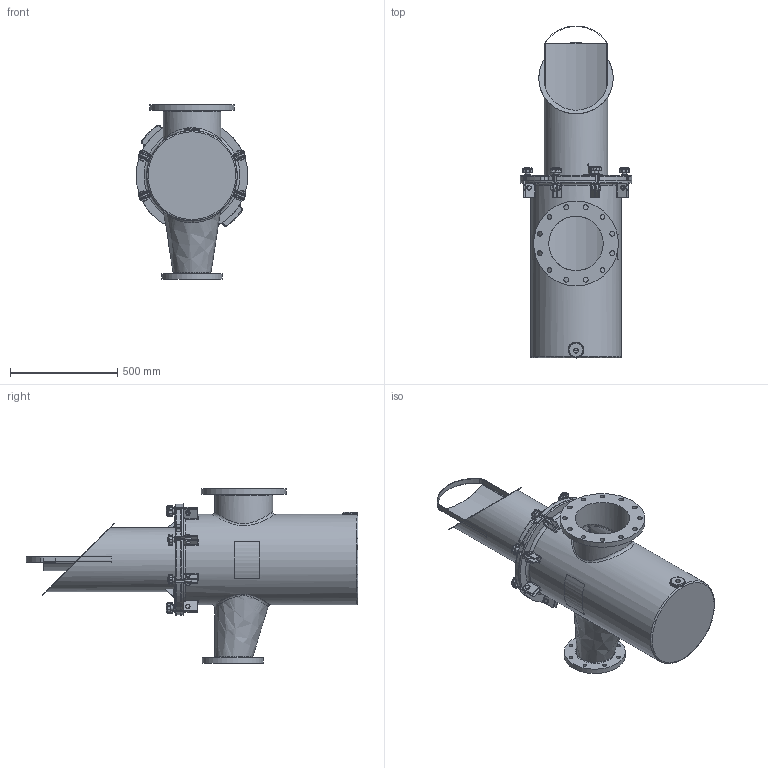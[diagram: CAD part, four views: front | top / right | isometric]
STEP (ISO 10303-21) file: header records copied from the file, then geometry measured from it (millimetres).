
FILE_DESCRIPTION(/* description */ ('250MM X 150MM FIBERGLASS STRAINER BODY'),/* implementation_level */ '2;1');
FILE_NAME(/* name */ 'C:\Users\r.kommineni.ext\Desktop\NB\CAD\Workspace\FG Reducing Strainer\Guardian FG Reducing H&L Strainer (Metric)_CLEARANCE VOLUME\STRAINER H&L 250MM X 150MM.stp',/* time_stamp */ '2017-06-09T13:33:35-04:00',/* author */ ('r.kommineni.ext'),/* organization */ (''),/* preprocessor_version */ 'ST-DEVELOPER v16.1',/* originating_system */ 'Autodesk Inventor 2016',/* authorisation */ '');
FILE_SCHEMA (('CONFIG_CONTROL_DESIGN'));
Length unit declared in the file: inch
Products named in the file (25): NBFGBODY10X06MM; 150NBCVR20R2; 150NBGSK16R1; Perforated Basket 16in; Bride (Ring) 16in; Baffle 16in; Handle 16in; Bottom Strainer 16in; BRACESTRCVR16_Welds; BRACE (BASE) FOR 16 BODY; BRACE (PROJ) FOR 16 BODY; Bumper; BRACESTRCVR16; Nut- 1_2  UNC; Bolt-1_2 x 1 1_2  UNC; EyeBolt; Washer; Knob M10; Securing Assembly For FG  with Brace; Securing Assembly For FG without Brace; Label for 16.625 inch (Right); Label for 16.625 inch (Left); NBBSK10T316_clearance; NBBSK10T316_clearance_1; STRAINER H&L 250MM X 150MM
Assembly tree (40 placements, depth 3):
  STRAINER H&L 250MM X 150MM
    NBFGBODY10X06MM
    150NBCVR20R2
    150NBGSK16R1
    NBBSK10T316_clearance_1
      Perforated Basket 16in
      Bride (Ring) 16in
      Baffle 16in
      Handle 16in
      Bottom Strainer 16in
      NBBSK10T316_clearance
    BRACESTRCVR16
      BRACESTRCVR16_Welds
      BRACE (BASE) FOR 16 BODY
      BRACE (PROJ) FOR 16 BODY
      Bumper  x6
    Securing Assembly For FG  with Brace  x2
      Nut- 1_2  UNC
      Bolt-1_2 x 1 1_2  UNC
      EyeBolt
      Washer
      Knob M10
    Securing Assembly For FG without Brace  x6
      Nut- 1_2  UNC
      Bolt-1_2 x 1 1_2  UNC
      EyeBolt
      Washer
      Knob M10
    Label for 16.625 inch (Right)
    Label for 16.625 inch (Left)
Bounding box: 520.7 x 1548.8 x 812.8 mm (x, y, z)
Volume: 22679340.1 mm3; surface area: 6546008.7 mm2
Topology: 66 solids, 69 shells, 1832 faces, 4192 edges, 2483 vertices
Faces by surface type: cylinder 671, plane 514, cone 184, torus 166, sphere 158, bspline 139
Full cylindrical faces by diameter (mm): 3.175 x11, 6.35 x2, 8.382 x8, 9.525 x16, 10.592 x8, 12.7 x8, 15.875 x16, 17.78 x8, 19 x16, 19.05 x8, 22.098 x12, 22.809 x1, 31.75 x8, 68.263 x1, 254 x1, 269.875 x1, 284.48 x1, 295.275 x2, 298.45 x2, 300.99 x1, 396.24 x1, 406.4 x2, 409.575 x1, 415.925 x1, 422.275 x1, 457.2 x1, 463.55 x1
Entity records: 35603 total; most frequent: CARTESIAN_POINT 12100, DIRECTION 4874, ORIENTED_EDGE 4405, EDGE_CURVE 2227, AXIS2_PLACEMENT_3D 1989, VERTEX_POINT 1399, EDGE_LOOP 1197, ADVANCED_FACE 982
